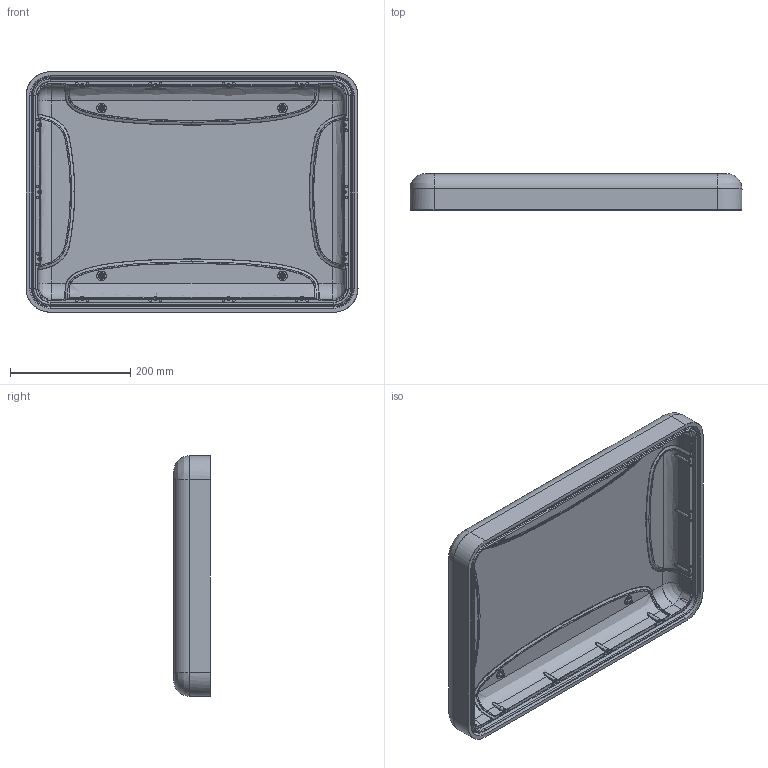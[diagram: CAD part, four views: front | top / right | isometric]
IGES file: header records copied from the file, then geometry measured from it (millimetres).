
Start section: SolidWorks IGES file using analytic representation for surfaces
Global section: file name: Z:\Share\Sylvain Charria\Inner Surface Files-20200318T143519Z-001\Inner Surface Files\940\940_R1_Top_INNER_SURFACE_IGES.IGS; native system: SolidWorks 2018; preprocessor: SolidWorks 2018; author: scharria; date: 200318.172925; units: inch
Bounding box: 552.39 x 60.38 x 399.99 mm (x, y, z)
Surface area: 626243.8 mm2 (no closed solid volume)
Topology: 0 solids, 0 shells, 917 faces, 12132 edges, 12132 vertices
Faces by surface type: bspline 767, revolution 150
